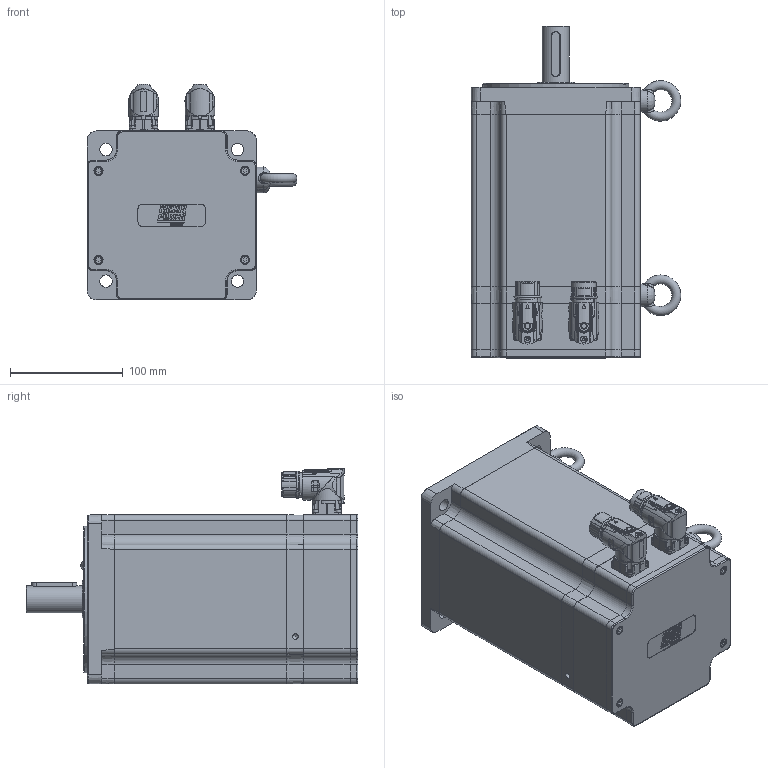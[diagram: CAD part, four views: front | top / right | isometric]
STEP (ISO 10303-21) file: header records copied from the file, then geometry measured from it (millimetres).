
FILE_DESCRIPTION(/* description */ ('Unknown'),/* implementation_level */ '2;1');
FILE_NAME(/* name */ 'TC4-150.6B.XX.X.3.M1.0.X.G2.00.00 Q0B753',/* time_stamp */ '2026-03-06T11:57:01+01:00',/* author */ ('Unknown'),/* organization */ ('Unknown'),/* preprocessor_version */ 'ST-DEVELOPER v19.4',/* originating_system */ 'Solid Edge',/* authorisation */ 'Unknown');
FILE_SCHEMA (('AUTOMOTIVE_DESIGN {1 0 10303 214 3 1 1}'));
Products named in the file (15): Q0B753 6B M1 VUOTO; 003003200179; 003155002228; 005113000600; 005321000040; 005911000252; 003103040237; 003151003170; 005911000185; 007117000456; Coperchio campana TC4-150; 007117000454; 005119002043; 003251040619; 005911000223
Assembly tree (28 placements, depth 2):
  Q0B753 6B M1 VUOTO
    003003200179
    003155002228
    005113000600
    005321000040  x2
    005911000252  x4
    003103040237
    003151003170
    005911000185  x8
    007117000456
    Coperchio campana TC4-150
    007117000454
    005119002043
    003251040619
    005911000223  x4
Bounding box: 185.97 x 294.5 x 191.5 mm (x, y, z)
Volume: 2028827.6 mm3; surface area: 514020.6 mm2
Topology: 29 solids, 29 shells, 2281 faces, 5684 edges, 3643 vertices
Faces by surface type: plane 991, cylinder 500, bspline 344, cone 269, torus 132, sphere 45
Full cylindrical faces by diameter (mm): 0.5 x1, 1 x21, 1.2 x17, 1.4 x4, 2 x4, 2.013 x8, 2.459 x2, 2.5 x8, 2.8 x4, 3 x12, 3.2 x1, 3.242 x8, 4 x4, 4.134 x16, 4.2 x1, 4.5 x10, 4.7 x8, 4.917 x6, 5 x6, 5.5 x10, 5.8 x1, 5.9 x2, 6 x3, 6.647 x2, 6.8 x1, 7 x4, 8 x8, 8.4 x1, 8.5 x4, 9 x4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
Entity records: 83258 total; most frequent: CARTESIAN_POINT 23865, ORIENTED_EDGE 9378, DIRECTION 8520, EDGE_CURVE 4689, AXIS2_PLACEMENT_3D 3279, VERTEX_POINT 3232, FACE_BOUND 2765, EDGE_LOOP 2745
